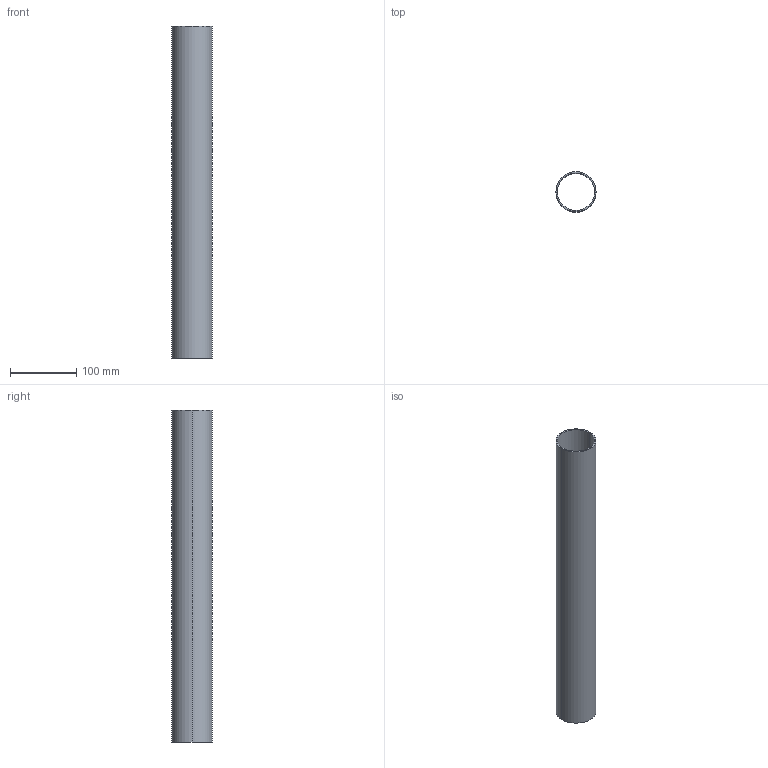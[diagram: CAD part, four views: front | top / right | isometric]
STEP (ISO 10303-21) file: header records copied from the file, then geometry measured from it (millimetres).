
FILE_DESCRIPTION (( 'STEP AP214' ), '1' );
FILE_NAME ('TUX60.STEP', '2011-06-30T08:22:14', ( '.' ), ( '' ), 'SwSTEP 2.0', 'SolidWorks 2010', '' );
FILE_SCHEMA (( 'AUTOMOTIVE_DESIGN' ));
Length unit declared in the file: millimetre
Products named in the file (1): TUX60
Bounding box: 60.3 x 60.3 x 500 mm (x, y, z)
Volume: 183154.9 mm3; surface area: 183887.5 mm2
Topology: 1 solids, 1 shells, 6 faces, 12 edges, 8 vertices
Faces by surface type: cylinder 4, plane 2
Entity records: 202 total; most frequent: DIRECTION 34, CARTESIAN_POINT 27, ORIENTED_EDGE 24, AXIS2_PLACEMENT_3D 15, EDGE_CURVE 12, VERTEX_POINT 8, EDGE_LOOP 8, CIRCLE 8
